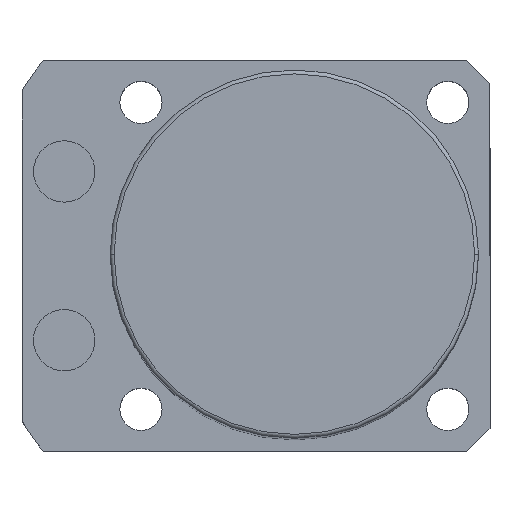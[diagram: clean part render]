
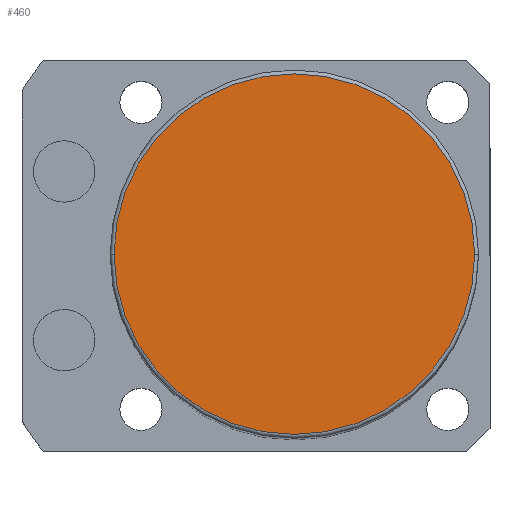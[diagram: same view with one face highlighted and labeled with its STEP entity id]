
A CAD part, top view. The second image highlights one B-rep face of the part: STEP entity #460.
In plain terms, the highlighted planar face has unit normal (0, 0, 1).
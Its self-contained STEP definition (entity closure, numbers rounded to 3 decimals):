
#205 = DIRECTION ( 'NONE',  ( 0., 0., 1. ) ) ;
#415 = ORIENTED_EDGE ( 'NONE', *, *, #1246, .T. ) ;
#460 = ADVANCED_FACE ( 'NONE', ( #1068 ), #787, .T. ) ;
#470 = DIRECTION ( 'NONE',  ( 1., 0., 0. ) ) ;
#481 = AXIS2_PLACEMENT_3D ( 'NONE', #2336, #1179, #1516 ) ;
#729 = VERTEX_POINT ( 'NONE', #1105 ) ;
#787 = PLANE ( 'NONE',  #481 ) ;
#845 = DIRECTION ( 'NONE',  ( 0., 0., 1. ) ) ;
#875 = EDGE_LOOP ( 'NONE', ( #415, #1274 ) ) ;
#1068 = FACE_OUTER_BOUND ( 'NONE', #875, .T. ) ;
#1105 = CARTESIAN_POINT ( 'NONE',  ( -23.5, 0., 141. ) ) ;
#1153 = CIRCLE ( 'NONE', #2497, 23.5 ) ;
#1179 = DIRECTION ( 'NONE',  ( 0., 0., 1. ) ) ;
#1201 = CARTESIAN_POINT ( 'NONE',  ( 0., 0., 141. ) ) ;
#1246 = EDGE_CURVE ( 'NONE', #1789, #729, #2354, .T. ) ;
#1274 = ORIENTED_EDGE ( 'NONE', *, *, #1972, .T. ) ;
#1516 = DIRECTION ( 'NONE',  ( 1., 0., 0. ) ) ;
#1523 = CARTESIAN_POINT ( 'NONE',  ( 23.5, 0., 141. ) ) ;
#1789 = VERTEX_POINT ( 'NONE', #1523 ) ;
#1972 = EDGE_CURVE ( 'NONE', #729, #1789, #1153, .T. ) ;
#2021 = AXIS2_PLACEMENT_3D ( 'NONE', #2366, #205, #2355 ) ;
#2336 = CARTESIAN_POINT ( 'NONE',  ( 0., 0., 141. ) ) ;
#2354 = CIRCLE ( 'NONE', #2021, 23.5 ) ;
#2355 = DIRECTION ( 'NONE',  ( 1., 0., 0. ) ) ;
#2366 = CARTESIAN_POINT ( 'NONE',  ( 0., 0., 141. ) ) ;
#2497 = AXIS2_PLACEMENT_3D ( 'NONE', #1201, #845, #470 ) ;
